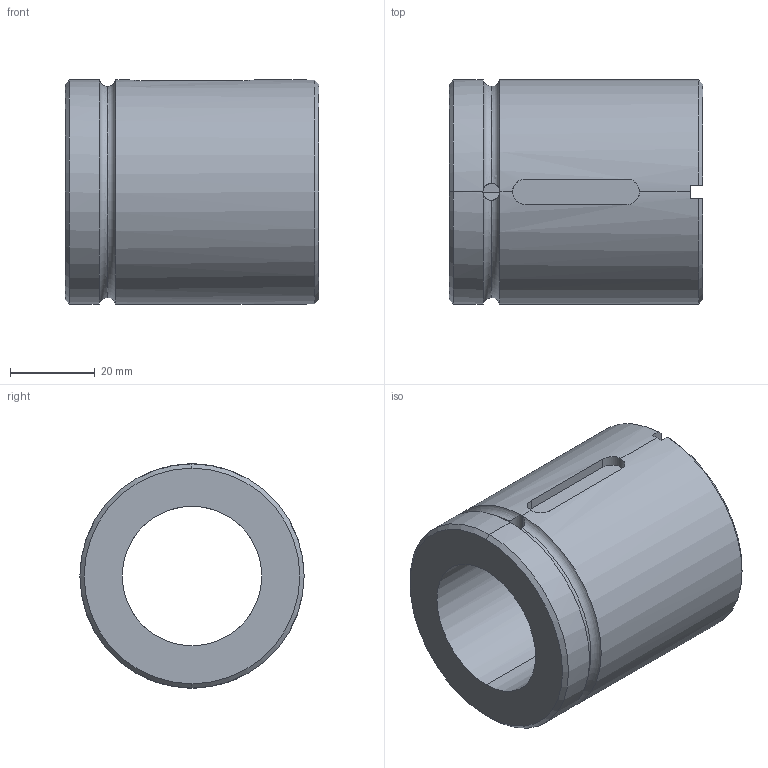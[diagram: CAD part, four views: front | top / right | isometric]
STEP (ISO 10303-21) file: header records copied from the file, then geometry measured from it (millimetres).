
FILE_DESCRIPTION (( 'STEP AP203' ), '1' );
FILE_NAME ('KGM-N 3210.STEP', '2021-01-21T08:39:10', ( 'user' ), ( 'datathink' ), 'SwSTEP 2.0', 'SolidWorks 2013', '' );
FILE_SCHEMA (( 'CONFIG_CONTROL_DESIGN' ));
Length unit declared in the file: millimetre
Products named in the file (1): KGM-N 3210
Bounding box: 60 x 53 x 53 mm (x, y, z)
Volume: 79479.7 mm3; surface area: 19245.9 mm2
Topology: 1 solids, 1 shells, 29 faces, 83 edges, 53 vertices
Faces by surface type: plane 12, cylinder 11, cone 4, torus 2
Entity records: 1196 total; most frequent: CARTESIAN_POINT 364, ORIENTED_EDGE 166, DIRECTION 153, EDGE_CURVE 83, AXIS2_PLACEMENT_3D 58, VERTEX_POINT 53, VECTOR 37, LINE 37
